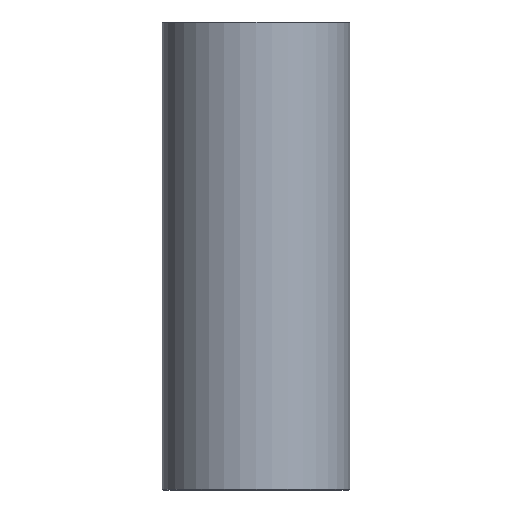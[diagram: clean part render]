
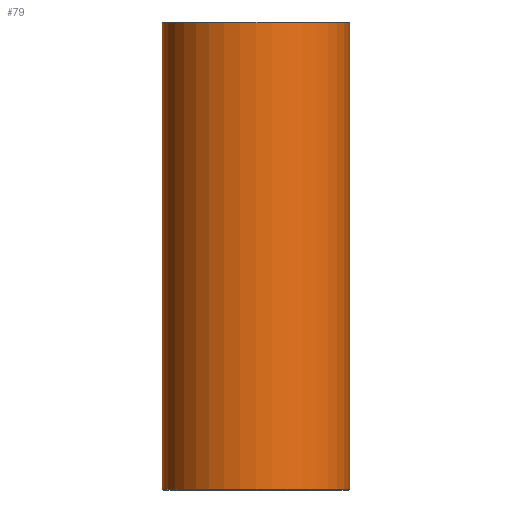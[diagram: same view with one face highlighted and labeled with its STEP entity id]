
A CAD part, front view. The second image highlights one B-rep face of the part: STEP entity #79.
In plain terms, the highlighted cylindrical face has radius 19 mm (diameter 38 mm), a full revolution.
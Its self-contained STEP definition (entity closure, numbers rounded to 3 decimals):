
#79=ADVANCED_FACE('',(#96,#97),#98,.T.);
#96=FACE_OUTER_BOUND('',#120,.T.);
#97=FACE_OUTER_BOUND('',#121,.T.);
#98=CYLINDRICAL_SURFACE('',#122,19.0);
#120=EDGE_LOOP('',(#152));
#121=EDGE_LOOP('',(#153));
#122=AXIS2_PLACEMENT_3D('',#154,#155,#156);
#152=ORIENTED_EDGE('',*,*,#178,.T.);
#153=ORIENTED_EDGE('',*,*,#177,.T.);
#154=CARTESIAN_POINT('',(0.0,0.0,95.0));
#155=DIRECTION('',(0.0,0.0,-1.0));
#156=DIRECTION('',(-1.0,0.0,0.0));
#177=EDGE_CURVE('',#190,#190,#191,.T.);
#178=EDGE_CURVE('',#192,#192,#193,.F.);
#190=VERTEX_POINT('',#206);
#191=CIRCLE('',#207,19.0);
#192=VERTEX_POINT('',#208);
#193=CIRCLE('',#209,19.0);
#206=CARTESIAN_POINT('',(19.0,0.0,0.2));
#207=AXIS2_PLACEMENT_3D('',#227,#228,#229);
#208=CARTESIAN_POINT('',(19.0,0.,94.8));
#209=AXIS2_PLACEMENT_3D('',#230,#231,#232);
#227=CARTESIAN_POINT('',(0.0,0.0,0.2));
#228=DIRECTION('',(0.0,0.0,1.0));
#229=DIRECTION('',(1.0,0.0,0.0));
#230=CARTESIAN_POINT('',(0.0,0.0,94.8));
#231=DIRECTION('',(0.0,0.0,1.0));
#232=DIRECTION('',(1.0,0.0,0.0));
